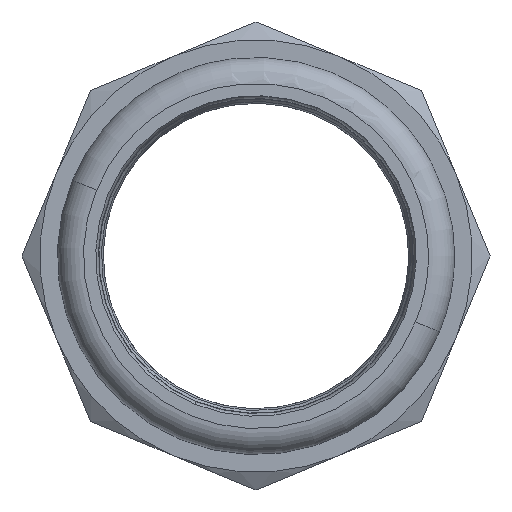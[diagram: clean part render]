
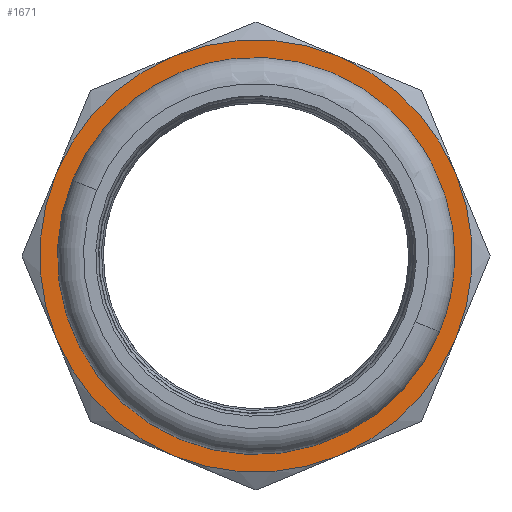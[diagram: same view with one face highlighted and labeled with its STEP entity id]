
A CAD part, left-side view. The second image highlights one B-rep face of the part: STEP entity #1671.
In plain terms, the highlighted planar face has unit normal (-1, 0, 0) as drawn and (0, 1, 0) by its records, which use the part's own axes.
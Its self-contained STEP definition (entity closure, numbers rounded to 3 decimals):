
#133 = CARTESIAN_POINT ( 'NONE',  ( 26.793, 23., 11.098 ) ) ;
#190 = CARTESIAN_POINT ( 'NONE',  ( 0., 23., 0. ) ) ;
#226 = VERTEX_POINT ( 'NONE', #2982 ) ;
#238 = CIRCLE ( 'NONE', #4068, 23.15 ) ;
#312 = DIRECTION ( 'NONE',  ( 0., 1., 0. ) ) ;
#507 = EDGE_LOOP ( 'NONE', ( #3730, #1449 ) ) ;
#535 = VERTEX_POINT ( 'NONE', #4679 ) ;
#560 = AXIS2_PLACEMENT_3D ( 'NONE', #1226, #1592, #3548 ) ;
#628 = AXIS2_PLACEMENT_3D ( 'NONE', #4013, #2822, #2881 ) ;
#650 = CARTESIAN_POINT ( 'NONE',  ( 0., 23., 0. ) ) ;
#738 = EDGE_CURVE ( 'NONE', #2472, #4317, #238, .T. ) ;
#777 = EDGE_CURVE ( 'NONE', #1239, #4195, #3518, .T. ) ;
#848 = CARTESIAN_POINT ( 'NONE',  ( -11.098, 23., -26.793 ) ) ;
#891 = CARTESIAN_POINT ( 'NONE',  ( 0., 23., 0. ) ) ;
#896 = DIRECTION ( 'NONE',  ( 0., -1., 0. ) ) ;
#976 = VERTEX_POINT ( 'NONE', #133 ) ;
#981 = CARTESIAN_POINT ( 'NONE',  ( 11.098, 23., 26.793 ) ) ;
#1009 = EDGE_CURVE ( 'NONE', #535, #1239, #4558, .T. ) ;
#1082 = VERTEX_POINT ( 'NONE', #981 ) ;
#1123 = DIRECTION ( 'NONE',  ( 0., 1., 0. ) ) ;
#1226 = CARTESIAN_POINT ( 'NONE',  ( 0., 23., 0. ) ) ;
#1239 = VERTEX_POINT ( 'NONE', #3417 ) ;
#1258 = CARTESIAN_POINT ( 'NONE',  ( 0., 23., 0. ) ) ;
#1294 = CARTESIAN_POINT ( 'NONE',  ( 0., 23., 0. ) ) ;
#1314 = PLANE ( 'NONE',  #628 ) ;
#1370 = EDGE_CURVE ( 'NONE', #1082, #976, #2936, .T. ) ;
#1425 = ORIENTED_EDGE ( 'NONE', *, *, #1370, .T. ) ;
#1446 = DIRECTION ( 'NONE',  ( 1., 0., 0. ) ) ;
#1449 = ORIENTED_EDGE ( 'NONE', *, *, #738, .T. ) ;
#1469 = AXIS2_PLACEMENT_3D ( 'NONE', #650, #3760, #4898 ) ;
#1478 = AXIS2_PLACEMENT_3D ( 'NONE', #1258, #4392, #2069 ) ;
#1529 = EDGE_LOOP ( 'NONE', ( #4857, #4150, #1595, #3365, #3620, #1425, #2433, #4915 ) ) ;
#1588 = EDGE_CURVE ( 'NONE', #4317, #2472, #2443, .T. ) ;
#1592 = DIRECTION ( 'NONE',  ( 0., 1., 0. ) ) ;
#1595 = ORIENTED_EDGE ( 'NONE', *, *, #1009, .T. ) ;
#1661 = CIRCLE ( 'NONE', #2954, 29. ) ;
#1671 = ADVANCED_FACE ( 'NONE', ( #3871, #4799 ), #1314, .T. ) ;
#1773 = EDGE_CURVE ( 'NONE', #4350, #535, #4436, .T. ) ;
#1836 = CARTESIAN_POINT ( 'NONE',  ( 0., 23., 0. ) ) ;
#1922 = CARTESIAN_POINT ( 'NONE',  ( -11.098, 23., 26.793 ) ) ;
#1959 = AXIS2_PLACEMENT_3D ( 'NONE', #891, #2799, #3644 ) ;
#2069 = DIRECTION ( 'NONE',  ( 0., 0., 1. ) ) ;
#2138 = DIRECTION ( 'NONE',  ( 0., 0., -1. ) ) ;
#2216 = DIRECTION ( 'NONE',  ( 0., 1., 0. ) ) ;
#2332 = CARTESIAN_POINT ( 'NONE',  ( 0., 23., -23.15 ) ) ;
#2433 = ORIENTED_EDGE ( 'NONE', *, *, #2969, .T. ) ;
#2443 = CIRCLE ( 'NONE', #1478, 23.15 ) ;
#2472 = VERTEX_POINT ( 'NONE', #2332 ) ;
#2558 = CIRCLE ( 'NONE', #560, 29. ) ;
#2597 = DIRECTION ( 'NONE',  ( 0., 0., -1. ) ) ;
#2603 = CARTESIAN_POINT ( 'NONE',  ( 0., 23., 0. ) ) ;
#2799 = DIRECTION ( 'NONE',  ( 0., 1., 0. ) ) ;
#2822 = DIRECTION ( 'NONE',  ( 0., 1., 0. ) ) ;
#2823 = DIRECTION ( 'NONE',  ( 0., 0., 1. ) ) ;
#2860 = DIRECTION ( 'NONE',  ( 0., 0., -1. ) ) ;
#2881 = DIRECTION ( 'NONE',  ( 0., 0., 1. ) ) ;
#2936 = CIRCLE ( 'NONE', #4078, 29. ) ;
#2954 = AXIS2_PLACEMENT_3D ( 'NONE', #1836, #2216, #2597 ) ;
#2969 = EDGE_CURVE ( 'NONE', #976, #4322, #3260, .T. ) ;
#2982 = CARTESIAN_POINT ( 'NONE',  ( 11.098, 23., -26.793 ) ) ;
#3188 = CARTESIAN_POINT ( 'NONE',  ( 26.793, 23., -11.098 ) ) ;
#3260 = CIRCLE ( 'NONE', #1469, 29. ) ;
#3365 = ORIENTED_EDGE ( 'NONE', *, *, #777, .T. ) ;
#3417 = CARTESIAN_POINT ( 'NONE',  ( -26.793, 23., 11.098 ) ) ;
#3428 = CARTESIAN_POINT ( 'NONE',  ( 0., 23., 0. ) ) ;
#3518 = CIRCLE ( 'NONE', #4747, 29. ) ;
#3531 = CARTESIAN_POINT ( 'NONE',  ( 0., 23., 0. ) ) ;
#3548 = DIRECTION ( 'NONE',  ( 0., 0., -1. ) ) ;
#3611 = DIRECTION ( 'NONE',  ( 0., 1., 0. ) ) ;
#3620 = ORIENTED_EDGE ( 'NONE', *, *, #4288, .T. ) ;
#3644 = DIRECTION ( 'NONE',  ( 0., 0., -1. ) ) ;
#3730 = ORIENTED_EDGE ( 'NONE', *, *, #1588, .T. ) ;
#3760 = DIRECTION ( 'NONE',  ( 0., 1., 0. ) ) ;
#3819 = DIRECTION ( 'NONE',  ( 1., 0., 0. ) ) ;
#3871 = FACE_BOUND ( 'NONE', #507, .T. ) ;
#3929 = AXIS2_PLACEMENT_3D ( 'NONE', #2603, #312, #1446 ) ;
#4013 = CARTESIAN_POINT ( 'NONE',  ( 0., 23., 0. ) ) ;
#4032 = EDGE_CURVE ( 'NONE', #226, #4350, #4330, .T. ) ;
#4068 = AXIS2_PLACEMENT_3D ( 'NONE', #3531, #896, #2823 ) ;
#4069 = DIRECTION ( 'NONE',  ( 0., 1., 0. ) ) ;
#4078 = AXIS2_PLACEMENT_3D ( 'NONE', #3428, #1123, #3819 ) ;
#4150 = ORIENTED_EDGE ( 'NONE', *, *, #1773, .T. ) ;
#4195 = VERTEX_POINT ( 'NONE', #1922 ) ;
#4288 = EDGE_CURVE ( 'NONE', #4195, #1082, #2558, .T. ) ;
#4317 = VERTEX_POINT ( 'NONE', #4323 ) ;
#4322 = VERTEX_POINT ( 'NONE', #3188 ) ;
#4323 = CARTESIAN_POINT ( 'NONE',  ( 0., 23., 23.15 ) ) ;
#4330 = CIRCLE ( 'NONE', #3929, 29. ) ;
#4350 = VERTEX_POINT ( 'NONE', #848 ) ;
#4392 = DIRECTION ( 'NONE',  ( 0., -1., 0. ) ) ;
#4435 = AXIS2_PLACEMENT_3D ( 'NONE', #190, #4069, #2138 ) ;
#4436 = CIRCLE ( 'NONE', #4435, 29. ) ;
#4558 = CIRCLE ( 'NONE', #1959, 29. ) ;
#4679 = CARTESIAN_POINT ( 'NONE',  ( -26.793, 23., -11.098 ) ) ;
#4747 = AXIS2_PLACEMENT_3D ( 'NONE', #1294, #3611, #2860 ) ;
#4799 = FACE_OUTER_BOUND ( 'NONE', #1529, .T. ) ;
#4857 = ORIENTED_EDGE ( 'NONE', *, *, #4032, .T. ) ;
#4898 = DIRECTION ( 'NONE',  ( 0., 0., -1. ) ) ;
#4915 = ORIENTED_EDGE ( 'NONE', *, *, #4988, .T. ) ;
#4988 = EDGE_CURVE ( 'NONE', #4322, #226, #1661, .T. ) ;
